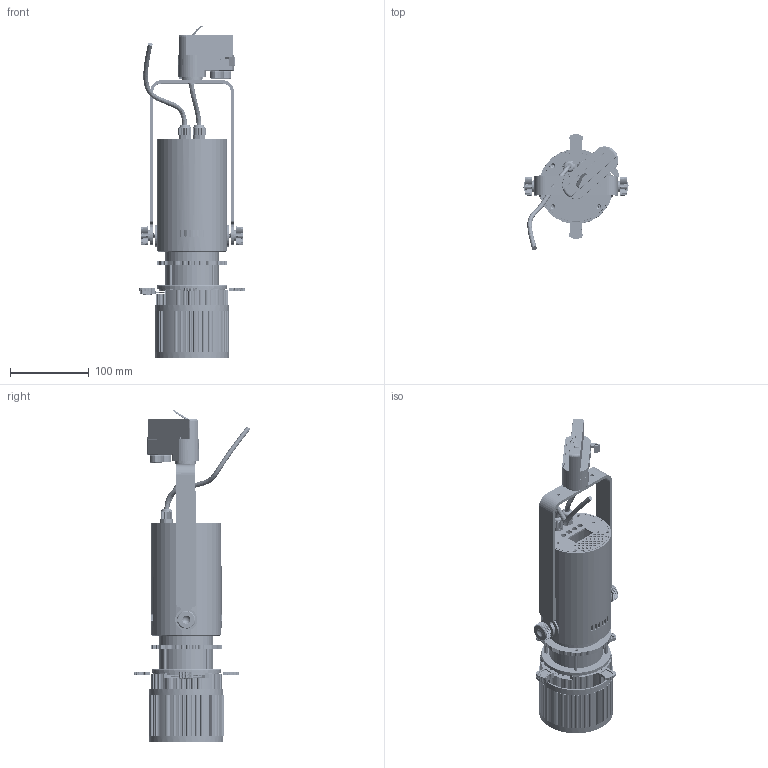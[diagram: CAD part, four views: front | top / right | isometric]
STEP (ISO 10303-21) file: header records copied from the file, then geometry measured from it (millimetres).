
FILE_DESCRIPTION (( 'STEP AP203' ), '1' );
FILE_NAME ('Art 50 spot.STEP', '2025-04-03T07:05:37', ( '' ), ( '' ), 'SwSTEP 2.0', 'SolidWorks 2023', '' );
FILE_SCHEMA (( 'CONFIG_CONTROL_DESIGN' ));
Length unit declared in the file: millimetre
Products named in the file (43): 0013^0012_ASM_0006_ASM_00_ASM_ART 50 CAISE_asm(2)_ART 50 CAISE_asm; S_1_____^60W0001_ASM_0006_ASM_00_ASM_ART 50 CAISE_asm(2)_ART 50 CAISE_asm; D28XD8X20001^00_ASM_ART 50 CAISE_asm(2)_ART 50 CAISE_asm; ART50000^00_ASM_ART 50 CAISE_asm(2)_ART 50 CAISE_asm; FGW-F_1_____^60W0001_ASM_0006_ASM_00_ASM_ART 50 CAISE_asm(2)_ART 50 CAISE_asm; 20^0021_ASM_00_ASM_ART 50 CAISE_asm(2)_ART 50 CAISE_asm; 0021_ASM^00_ASM_ART 50 CAISE_asm(2)_ART 50 CAISE_asm; PG700^0021_ASM_00_ASM_ART 50 CAISE_asm(2)_ART 50 CAISE_asm; 0014_ASM^0006_ASM_00_ASM_ART 50 CAISE_asm(2)_ART 50 CAISE_asm; 45W--G40015120001^00_ASM_ART 50 CAISE_asm(2)_ART 50 CAISE_asm; 00-2^0006_ASM_00_ASM_ART 50 CAISE_asm(2)_ART 50 CAISE_asm; HANGKONGCHA^00_ASM_ART 50 CAISE_asm(2)_ART 50 CAISE_asm; 001^0014_ASM_0006_ASM_00_ASM_ART 50 CAISE_asm(2)_ART 50 CAISE_asm; 1MM0001^0014_ASM_0006_ASM_00_ASM_ART 50 CAISE_asm(2)_ART 50 CAISE_asm; 0-3X3100^0014_ASM_0006_ASM_00_ASM_ART 50 CAISE_asm(2)_ART 50 CAISE_asm; M6X150001^00_ASM_ART 50 CAISE_asm(2)_ART 50 CAISE_asm; eBom-FreeParts; Art 50 spot; D_1_____^60W0001_ASM_0006_ASM_00_ASM_ART 50 CAISE_asm(2)_ART 50 CAISE_asm; 0-3X3200^0006_ASM_00_ASM_ART 50 CAISE_asm(2)_ART 50 CAISE_asm; 00-1^0006_ASM_00_ASM_ART 50 CAISE_asm(2)_ART 50 CAISE_asm; 1-5MM0001^0006_ASM_00_ASM_ART 50 CAISE_asm(2)_ART 50 CAISE_asm; 10001^0006_ASM_00_ASM_ART 50 CAISE_asm(2)_ART 50 CAISE_asm; 00_ASM^ART 50 CAISE_asm(2)_ART 50 CAISE_asm; 0019^0006_ASM_00_ASM_ART 50 CAISE_asm(2)_ART 50 CAISE_asm; 0026^00_ASM_ART 50 CAISE_asm(2)_ART 50 CAISE_asm; 0016^0014_ASM_0006_ASM_00_ASM_ART 50 CAISE_asm(2)_ART 50 CAISE_asm; 0^0021_ASM_00_ASM_ART 50 CAISE_asm(2)_ART 50 CAISE_asm; DMXHANGKONGCAH^00_ASM_ART 50 CAISE_asm(2)_ART 50 CAISE_asm; 0015^0014_ASM_0006_ASM_00_ASM_ART 50 CAISE_asm(2)_ART 50 CAISE_asm; 60W0001_ASM^0006_ASM_00_ASM_ART 50 CAISE_asm(2)_ART 50 CAISE_asm; ART 50 CAISE_asm(2)^ART 50 CAISE_asm; 0019^60W0001_ASM_0006_ASM_00_ASM_ART 50 CAISE_asm(2)_ART 50 CAISE_asm; 0011^0006_ASM_00_ASM_ART 50 CAISE_asm(2)_ART 50 CAISE_asm; 00-0^0006_ASM_00_ASM_ART 50 CAISE_asm(2)_ART 50 CAISE_asm; 0022^0021_ASM_00_ASM_ART 50 CAISE_asm(2)_ART 50 CAISE_asm; 0006_ASM^00_ASM_ART 50 CAISE_asm(2)_ART 50 CAISE_asm; 00^0014_ASM_0006_ASM_00_ASM_ART 50 CAISE_asm(2)_ART 50 CAISE_asm; 30001^0006_ASM_00_ASM_ART 50 CAISE_asm(2)_ART 50 CAISE_asm; MD-__^60W0001_ASM_0006_ASM_00_ASM_ART 50 CAISE_asm(2)_ART 50 CAISE_asm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
Assembly tree (58 placements, depth 6):
  eBom-FreeParts
  Art 50 spot
    ART 50 CAISE_asm(2)^ART 50 CAISE_asm
      00_ASM^ART 50 CAISE_asm(2)_ART 50 CAISE_asm
        0006_ASM^00_ASM_ART 50 CAISE_asm(2)_ART 50 CAISE_asm
          0012_ASM^0006_ASM_00_ASM_ART 50 CAISE_asm(2)_ART 50 CAISE_asm
            0013^0012_ASM_0006_ASM_00_ASM_ART 50 CAISE_asm(2)_ART 50 CAISE_asm
          0014_ASM^0006_ASM_00_ASM_ART 50 CAISE_asm(2)_ART 50 CAISE_asm
            0015^0014_ASM_0006_ASM_00_ASM_ART 50 CAISE_asm(2)_ART 50 CAISE_asm
            0016^0014_ASM_0006_ASM_00_ASM_ART 50 CAISE_asm(2)_ART 50 CAISE_asm  x4
            00^0014_ASM_0006_ASM_00_ASM_ART 50 CAISE_asm(2)_ART 50 CAISE_asm
            0-3X3100^0014_ASM_0006_ASM_00_ASM_ART 50 CAISE_asm(2)_ART 50 CAISE_asm  x2
            1MM0001^0014_ASM_0006_ASM_00_ASM_ART 50 CAISE_asm(2)_ART 50 CAISE_asm
            001^0014_ASM_0006_ASM_00_ASM_ART 50 CAISE_asm(2)_ART 50 CAISE_asm
          60W0001_ASM^0006_ASM_00_ASM_ART 50 CAISE_asm(2)_ART 50 CAISE_asm
            FGW-F_1_____^60W0001_ASM_0006_ASM_00_ASM_ART 50 CAISE_asm(2)_ART 50 CAISE_asm
            S_1_____^60W0001_ASM_0006_ASM_00_ASM_ART 50 CAISE_asm(2)_ART 50 CAISE_asm
            D_1_____^60W0001_ASM_0006_ASM_00_ASM_ART 50 CAISE_asm(2)_ART 50 CAISE_asm
            0019^60W0001_ASM_0006_ASM_00_ASM_ART 50 CAISE_asm(2)_ART 50 CAISE_asm
            MD-__^60W0001_ASM_0006_ASM_00_ASM_ART 50 CAISE_asm(2)_ART 50 CAISE_asm  x2
          00-0^0006_ASM_00_ASM_ART 50 CAISE_asm(2)_ART 50 CAISE_asm
          00-1^0006_ASM_00_ASM_ART 50 CAISE_asm(2)_ART 50 CAISE_asm
          00-2^0006_ASM_00_ASM_ART 50 CAISE_asm(2)_ART 50 CAISE_asm  x4
          30001^0006_ASM_00_ASM_ART 50 CAISE_asm(2)_ART 50 CAISE_asm  x2
          10001^0006_ASM_00_ASM_ART 50 CAISE_asm(2)_ART 50 CAISE_asm
          0011^0006_ASM_00_ASM_ART 50 CAISE_asm(2)_ART 50 CAISE_asm
          0-3X3200^0006_ASM_00_ASM_ART 50 CAISE_asm(2)_ART 50 CAISE_asm  x3
          1-5MM0001^0006_ASM_00_ASM_ART 50 CAISE_asm(2)_ART 50 CAISE_asm
          0019^0006_ASM_00_ASM_ART 50 CAISE_asm(2)_ART 50 CAISE_asm  x4
        0021_ASM^00_ASM_ART 50 CAISE_asm(2)_ART 50 CAISE_asm
          0022^0021_ASM_00_ASM_ART 50 CAISE_asm(2)_ART 50 CAISE_asm
          PG700^0021_ASM_00_ASM_ART 50 CAISE_asm(2)_ART 50 CAISE_asm  x2
          20^0021_ASM_00_ASM_ART 50 CAISE_asm(2)_ART 50 CAISE_asm
          0^0021_ASM_00_ASM_ART 50 CAISE_asm(2)_ART 50 CAISE_asm
        ART50000^00_ASM_ART 50 CAISE_asm(2)_ART 50 CAISE_asm
        45W--G40015120001^00_ASM_ART 50 CAISE_asm(2)_ART 50 CAISE_asm
        00-3^00_ASM_ART 50 CAISE_asm(2)_ART 50 CAISE_asm
        M6X150001^00_ASM_ART 50 CAISE_asm(2)_ART 50 CAISE_asm  x2
        0026^00_ASM_ART 50 CAISE_asm(2)_ART 50 CAISE_asm
        002-4^00_ASM_ART 50 CAISE_asm(2)_ART 50 CAISE_asm
        HANGKONGCHA^00_ASM_ART 50 CAISE_asm(2)_ART 50 CAISE_asm
        DMXHANGKONGCAH^00_ASM_ART 50 CAISE_asm(2)_ART 50 CAISE_asm
        D28XD8X20001^00_ASM_ART 50 CAISE_asm(2)_ART 50 CAISE_asm  x2
Bounding box: 133.38 x 147.87 x 421.03 mm (x, y, z)
Volume: 324399.3 mm3; surface area: 448631.5 mm2
Topology: 44 solids, 69 shells, 8099 faces, 20632 edges, 12633 vertices
Faces by surface type: cylinder 3238, plane 2051, bspline 1465, torus 855, sphere 256, cone 234
Entity records: 217974 total; most frequent: CARTESIAN_POINT 94073, ORIENTED_EDGE 25692, DIRECTION 24931, EDGE_CURVE 12872, AXIS2_PLACEMENT_3D 10183, VERTEX_POINT 8031, CIRCLE 5764, EDGE_LOOP 5365
